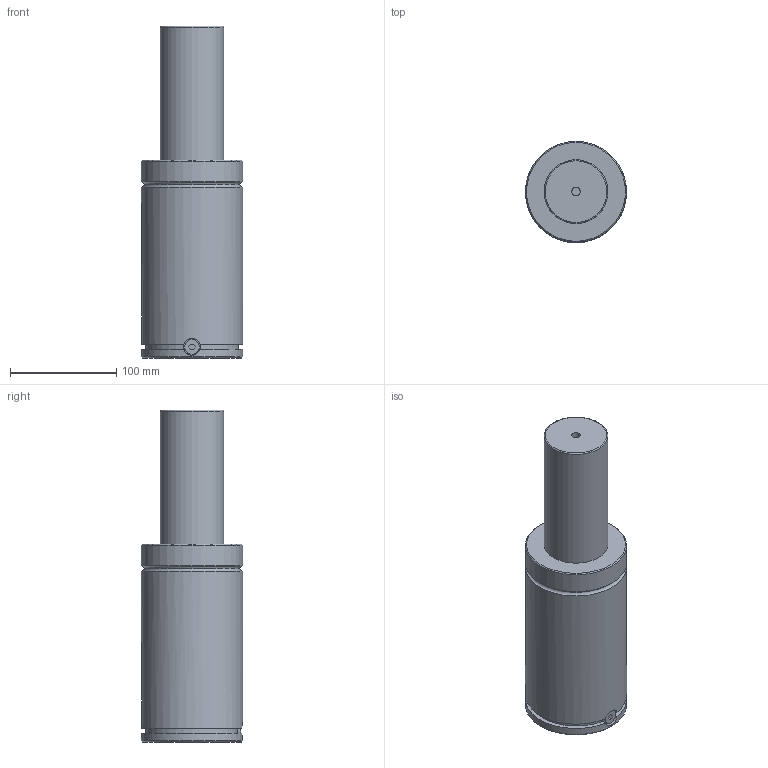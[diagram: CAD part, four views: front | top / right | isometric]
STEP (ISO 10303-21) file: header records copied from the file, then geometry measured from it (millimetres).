
FILE_DESCRIPTION(('FreeCAD Model'),'2;1');
FILE_NAME('Open CASCADE Shape Model','2024-11-12T11:02:39',('Author'),( ''),'Open CASCADE STEP processor 7.6','FreeCAD','Unknown');
FILE_SCHEMA(('AUTOMOTIVE_DESIGN { 1 0 10303 214 1 1 1 1 }'));
Length unit declared in the file: millimetre
Products named in the file (7): Unnamed; Part001; MICRO 95x018; Part015; Cut003; Part016; Cut
Assembly tree (6 placements, depth 3):
  Unnamed
    Part001
      MICRO 95x018
    Part015
      Cut003
    Part016
      Cut
Bounding box: 95 x 95 x 312 mm (x, y, z)
Volume: 1663259.3 mm3; surface area: 103946.7 mm2
Topology: 3 solids, 3 shells, 45 faces, 88 edges, 56 vertices
Faces by surface type: plane 22, cylinder 16, cone 4, torus 3
Full cylindrical faces by diameter (mm): 8 x5, 16 x1, 60 x1, 95 x3
Entity records: 1511 total; most frequent: CARTESIAN_POINT 417, DIRECTION 225, ORIENTED_EDGE 176, AXIS2_PLACEMENT_3D 92, EDGE_CURVE 88, VERTEX_POINT 56, FACE_BOUND 52, EDGE_LOOP 52
